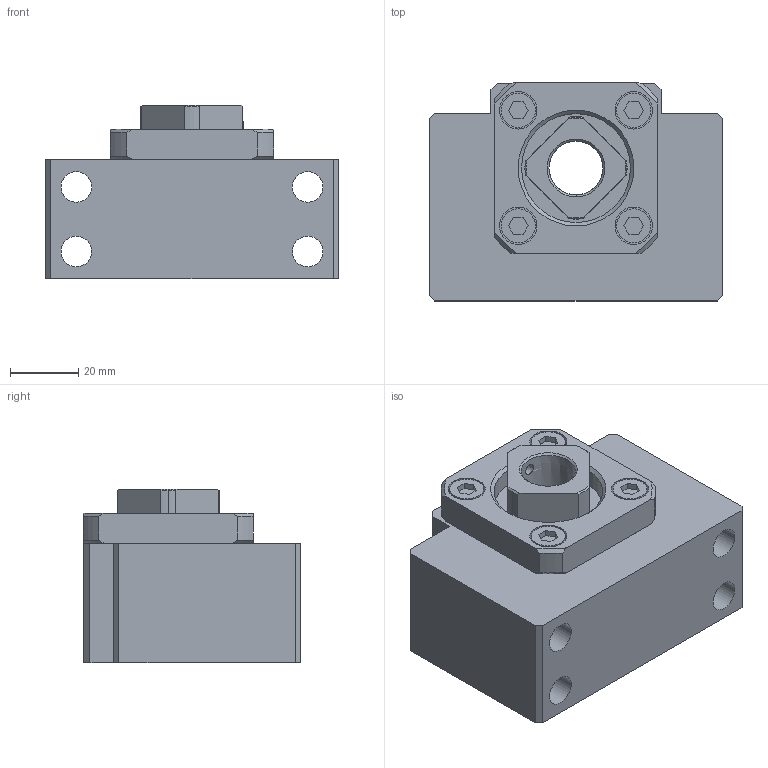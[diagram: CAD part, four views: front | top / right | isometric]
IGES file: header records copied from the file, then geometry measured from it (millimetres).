
Start section: Data from Parasolid IGES Translator 26.0.171, Copyright(c) 2006 Siemens PLM Software. All Rights Reserved.
Global section: file name: BK17Yes.igs; native system: By Siemens PLM Incorporated; preprocessor: XPlus GENERIC/IGES 26.0.171; author: Noname; organization: Noname; date: 20250610.082042; units: millimetre
Bounding box: 86 x 64 x 51 mm (x, y, z)
Surface area: 44436.2 mm2 (no closed solid volume)
Topology: 0 solids, 0 shells, 167 faces, 800 edges, 751 vertices
Faces by surface type: extrusion 97, revolution 70
